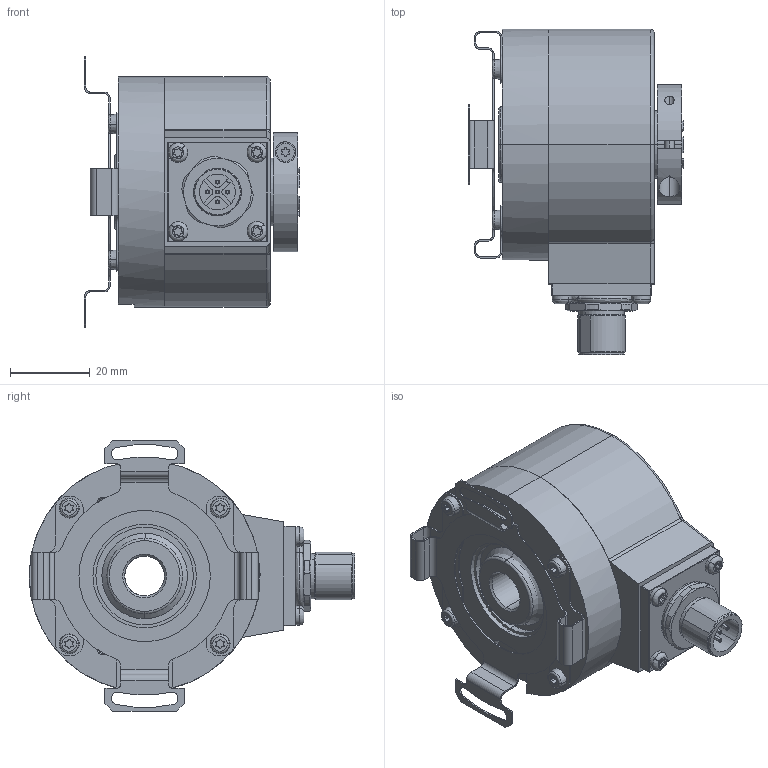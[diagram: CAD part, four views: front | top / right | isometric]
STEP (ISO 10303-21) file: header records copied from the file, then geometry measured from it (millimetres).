
FILE_DESCRIPTION (( 'STEP AP203' ), '1' );
FILE_NAME ('K58I.OXX.XXXXX.XC12510.6XRC3.step', '2025-12-08T11:24:17', ( '' ), ( '' ), 'SwSTEP 2.0', 'SolidWorks 2021', '' );
FILE_SCHEMA (( 'CONFIG_CONTROL_DESIGN' ));
Length unit declared in the file: millimetre
Products named in the file (1): K58I.OXX.XXXXX.XC12510.6XRC3
Bounding box: 54.09 x 81.8 x 68 mm (x, y, z)
Surface area: 36930.6 mm2 (no closed solid volume)
Topology: 0 solids, 13 shells, 708 faces, 1754 edges, 1097 vertices
Faces by surface type: cylinder 345, plane 254, cone 70, bspline 24, torus 15
Entity records: 22875 total; most frequent: CARTESIAN_POINT 5653, DIRECTION 3835, ORIENTED_EDGE 3464, EDGE_CURVE 1740, AXIS2_PLACEMENT_3D 1511, VERTEX_POINT 1097, CIRCLE 826, VECTOR 813
